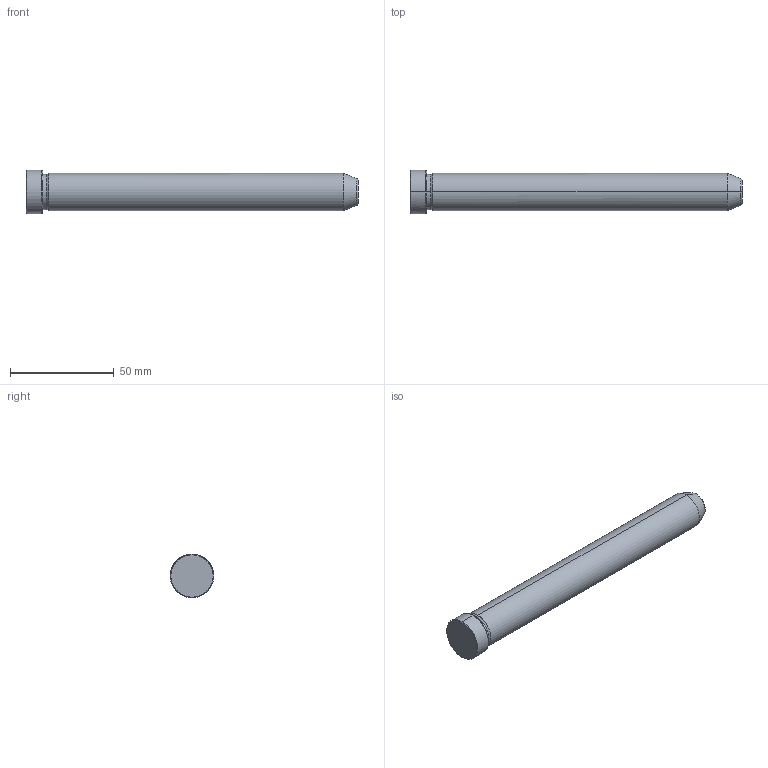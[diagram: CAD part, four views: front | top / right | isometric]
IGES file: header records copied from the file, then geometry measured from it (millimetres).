
Start section: START RECORD GO HERE.
Global section: file name: 549-18X160.igs; native system: DASSAULT SYSTEMES CATIA V5 R20 - www.3ds.com; preprocessor: CATIA Version 5 Release 20 ; author: Utente; organization: NB04-ASUS; date: 20211211.104033; units: millimetre
Bounding box: 160 x 21 x 21 mm (x, y, z)
Surface area: 9642.4 mm2 (no closed solid volume)
Topology: 0 solids, 0 shells, 19 faces, 112 edges, 112 vertices
Faces by surface type: revolution 16, plane 3
